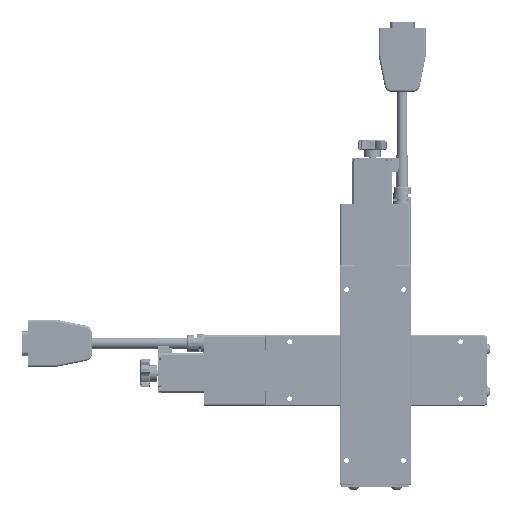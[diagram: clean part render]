
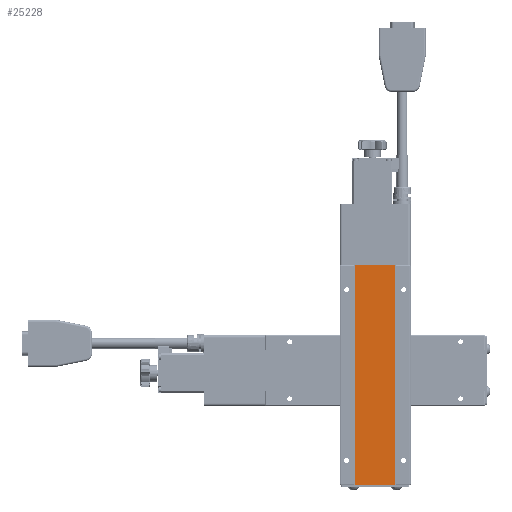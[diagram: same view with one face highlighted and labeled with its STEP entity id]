
A CAD part, front view. The second image highlights one B-rep face of the part: STEP entity #25228.
In plain terms, the highlighted planar face has unit normal (0, -1, 0).
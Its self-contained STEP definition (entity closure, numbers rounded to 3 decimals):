
#3007 = EDGE_CURVE ( 'NONE', #216335, #290737, #164749, .T. ) ;
#3276 = VECTOR ( 'NONE', #156382, 1000. ) ;
#14340 = CARTESIAN_POINT ( 'NONE',  ( -14.3, 0.8, 0.2 ) ) ;
#23940 = LINE ( 'NONE', #195831, #281399 ) ;
#25228 = ADVANCED_FACE ( 'NONE', ( #350072 ), #66001, .F. ) ;
#25378 = LINE ( 'NONE', #266034, #177143 ) ;
#66001 = PLANE ( 'NONE',  #258835 ) ;
#86358 = ORIENTED_EDGE ( 'NONE', *, *, #451428, .T. ) ;
#91478 = DIRECTION ( 'NONE',  ( -1., 0., 0. ) ) ;
#95957 = CARTESIAN_POINT ( 'NONE',  ( -14.3, 0.8, 154.8 ) ) ;
#96350 = DIRECTION ( 'NONE',  ( 0., 0., 1. ) ) ;
#154516 = VERTEX_POINT ( 'NONE', #278404 ) ;
#156382 = DIRECTION ( 'NONE',  ( 0., 0., -1. ) ) ;
#162025 = ORIENTED_EDGE ( 'NONE', *, *, #363292, .T. ) ;
#164749 = LINE ( 'NONE', #95957, #406722 ) ;
#177143 = VECTOR ( 'NONE', #96350, 1000. ) ;
#178102 = DIRECTION ( 'NONE',  ( -1., 0., 0. ) ) ;
#190739 = LINE ( 'NONE', #14340, #3276 ) ;
#195831 = CARTESIAN_POINT ( 'NONE',  ( -14.3, 0.8, 0.2 ) ) ;
#212441 = DIRECTION ( 'NONE',  ( 0., 1., 0. ) ) ;
#216335 = VERTEX_POINT ( 'NONE', #327859 ) ;
#233174 = ORIENTED_EDGE ( 'NONE', *, *, #316426, .T. ) ;
#252310 = EDGE_LOOP ( 'NONE', ( #86358, #162025, #233174, #295244 ) ) ;
#255158 = VERTEX_POINT ( 'NONE', #333829 ) ;
#258835 = AXIS2_PLACEMENT_3D ( 'NONE', #347821, #212441, #178102 ) ;
#266034 = CARTESIAN_POINT ( 'NONE',  ( 14.3, 0.8, 0.2 ) ) ;
#278404 = CARTESIAN_POINT ( 'NONE',  ( -14.3, 0.8, 0.2 ) ) ;
#281399 = VECTOR ( 'NONE', #367813, 1000. ) ;
#290737 = VERTEX_POINT ( 'NONE', #357018 ) ;
#295244 = ORIENTED_EDGE ( 'NONE', *, *, #3007, .T. ) ;
#316426 = EDGE_CURVE ( 'NONE', #255158, #216335, #25378, .T. ) ;
#327859 = CARTESIAN_POINT ( 'NONE',  ( 14.3, 0.8, 154.8 ) ) ;
#333829 = CARTESIAN_POINT ( 'NONE',  ( 14.3, 0.8, 0.2 ) ) ;
#347821 = CARTESIAN_POINT ( 'NONE',  ( -14.3, 0.8, 154.8 ) ) ;
#350072 = FACE_OUTER_BOUND ( 'NONE', #252310, .T. ) ;
#357018 = CARTESIAN_POINT ( 'NONE',  ( -14.3, 0.8, 154.8 ) ) ;
#363292 = EDGE_CURVE ( 'NONE', #154516, #255158, #23940, .T. ) ;
#367813 = DIRECTION ( 'NONE',  ( 1., 0., 0. ) ) ;
#406722 = VECTOR ( 'NONE', #91478, 1000. ) ;
#451428 = EDGE_CURVE ( 'NONE', #290737, #154516, #190739, .T. ) ;
